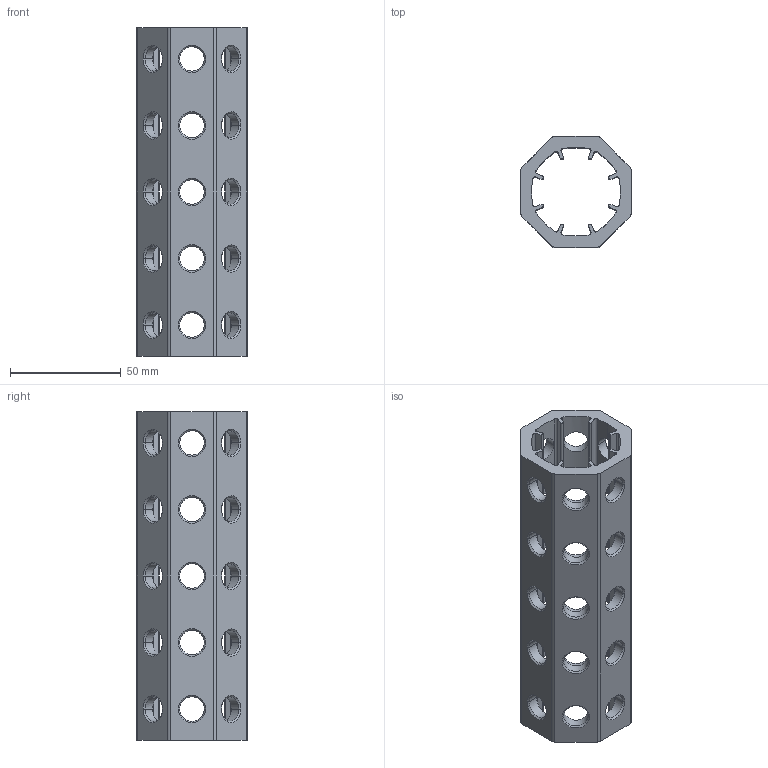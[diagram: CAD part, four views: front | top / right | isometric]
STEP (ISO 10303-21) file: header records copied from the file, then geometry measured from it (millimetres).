
FILE_DESCRIPTION(('CATIA V5 STEP Exchange'),'2;1');
FILE_NAME('U:\Room\唐宝山\EGT002\46-01-010234-01-EGT002-148.stp','2021-08-24T00:56:22+00:00',('none'),('none'),'CATIA Version 5 Release 21 GA (IN-10)','CATIA V5 STEP AP203','none');
FILE_SCHEMA(('CONFIG_CONTROL_DESIGN'));
Length unit declared in the file: millimetre
Products named in the file (1): 46-01-010234-01-EGT002-148
Bounding box: 50 x 50 x 148 mm (x, y, z)
Volume: 105206.4 mm3; surface area: 52390.3 mm2
Topology: 1 solids, 1 shells, 284 faces, 796 edges, 504 vertices
Faces by surface type: cylinder 138, cone 120, plane 26
Entity records: 11225 total; most frequent: CARTESIAN_POINT 4178, ORIENTED_EDGE 1592, DIRECTION 1157, EDGE_CURVE 796, AXIS2_PLACEMENT_3D 534, VERTEX_POINT 504, EDGE_LOOP 356, VECTOR 340
